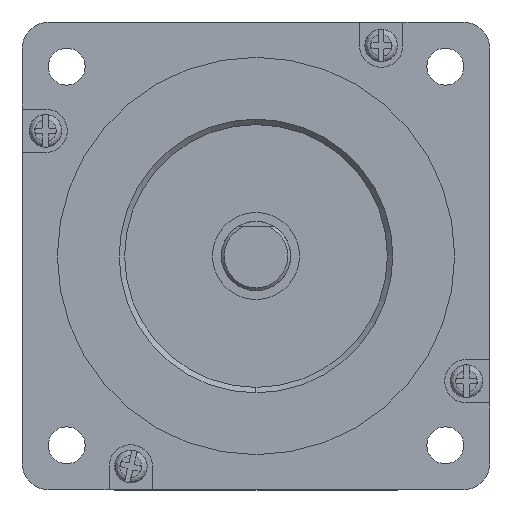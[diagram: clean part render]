
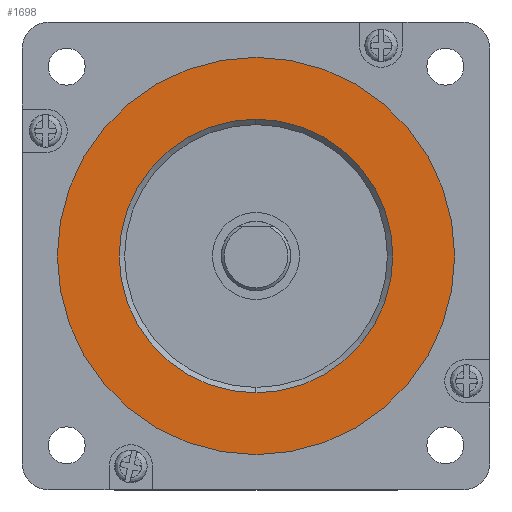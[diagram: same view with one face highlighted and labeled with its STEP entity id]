
A CAD part, left-side view. The second image highlights one B-rep face of the part: STEP entity #1698.
In plain terms, the highlighted planar face has unit normal (-1, 0, 0) as drawn and (0, 0, -1) by its records, which use the part's own axes.
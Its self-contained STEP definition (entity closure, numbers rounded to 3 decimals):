
#8 = EDGE_CURVE ( 'NONE', #5593, #6371, #2503, .T. ) ;
#28 = DIRECTION ( 'NONE',  ( 0., 0., -1. ) ) ;
#31 = DIRECTION ( 'NONE',  ( -1., 0., 0. ) ) ;
#549 = PLANE ( 'NONE',  #6409 ) ;
#815 = ORIENTED_EDGE ( 'NONE', *, *, #2615, .T. ) ;
#858 = EDGE_LOOP ( 'NONE', ( #815, #5033 ) ) ;
#984 = CARTESIAN_POINT ( 'NONE',  ( 0., 0., -1.6 ) ) ;
#1113 = CARTESIAN_POINT ( 'NONE',  ( -25.153, 0., -1.6 ) ) ;
#1414 = ORIENTED_EDGE ( 'NONE', *, *, #2701, .F. ) ;
#1446 = DIRECTION ( 'NONE',  ( 0., 0., -1. ) ) ;
#1675 = CIRCLE ( 'NONE', #2251, 25.153 ) ;
#1698 = ADVANCED_FACE ( 'NONE', ( #3216, #4573 ), #549, .T. ) ;
#2142 = CARTESIAN_POINT ( 'NONE',  ( 0., 0., -1.6 ) ) ;
#2251 = AXIS2_PLACEMENT_3D ( 'NONE', #6149, #3065, #31 ) ;
#2425 = CIRCLE ( 'NONE', #5780, 36.5 ) ;
#2503 = CIRCLE ( 'NONE', #3031, 25.153 ) ;
#2537 = EDGE_LOOP ( 'NONE', ( #1414, #3140 ) ) ;
#2615 = EDGE_CURVE ( 'NONE', #4929, #3510, #4893, .T. ) ;
#2648 = CARTESIAN_POINT ( 'NONE',  ( 36.5, 0., -1.6 ) ) ;
#2653 = DIRECTION ( 'NONE',  ( -1., 0., 0. ) ) ;
#2701 = EDGE_CURVE ( 'NONE', #6371, #5593, #1675, .T. ) ;
#2869 = DIRECTION ( 'NONE',  ( 0., 0., -1. ) ) ;
#3031 = AXIS2_PLACEMENT_3D ( 'NONE', #3360, #2869, #6460 ) ;
#3065 = DIRECTION ( 'NONE',  ( 0., 0., -1. ) ) ;
#3140 = ORIENTED_EDGE ( 'NONE', *, *, #8, .F. ) ;
#3216 = FACE_BOUND ( 'NONE', #2537, .T. ) ;
#3242 = CARTESIAN_POINT ( 'NONE',  ( -36.5, 0., -1.6 ) ) ;
#3360 = CARTESIAN_POINT ( 'NONE',  ( 0., 0., -1.6 ) ) ;
#3460 = EDGE_CURVE ( 'NONE', #3510, #4929, #2425, .T. ) ;
#3510 = VERTEX_POINT ( 'NONE', #3242 ) ;
#4513 = CARTESIAN_POINT ( 'NONE',  ( 0., 0., -1.6 ) ) ;
#4573 = FACE_OUTER_BOUND ( 'NONE', #858, .T. ) ;
#4629 = DIRECTION ( 'NONE',  ( -1., 0., 0. ) ) ;
#4893 = CIRCLE ( 'NONE', #6372, 36.5 ) ;
#4929 = VERTEX_POINT ( 'NONE', #2648 ) ;
#5033 = ORIENTED_EDGE ( 'NONE', *, *, #3460, .T. ) ;
#5046 = DIRECTION ( 'NONE',  ( -1., 0., 0. ) ) ;
#5593 = VERTEX_POINT ( 'NONE', #6551 ) ;
#5733 = DIRECTION ( 'NONE',  ( 0., 0., -1. ) ) ;
#5780 = AXIS2_PLACEMENT_3D ( 'NONE', #2142, #5733, #2653 ) ;
#6149 = CARTESIAN_POINT ( 'NONE',  ( 0., 0., -1.6 ) ) ;
#6371 = VERTEX_POINT ( 'NONE', #1113 ) ;
#6372 = AXIS2_PLACEMENT_3D ( 'NONE', #4513, #1446, #5046 ) ;
#6409 = AXIS2_PLACEMENT_3D ( 'NONE', #984, #28, #4629 ) ;
#6460 = DIRECTION ( 'NONE',  ( -1., 0., 0. ) ) ;
#6551 = CARTESIAN_POINT ( 'NONE',  ( 25.153, 0., -1.6 ) ) ;
